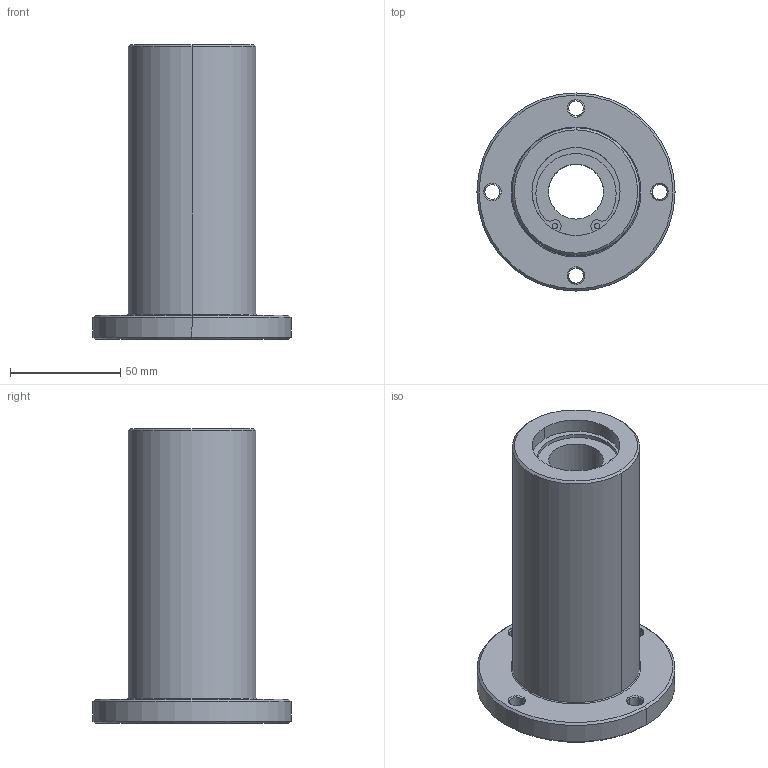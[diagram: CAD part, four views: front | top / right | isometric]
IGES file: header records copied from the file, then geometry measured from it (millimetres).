
Start section: 3D InterOp IGES (Version 21 0 1), Spatial Corp. Copyright (c) 1999-2007.
Global section: file name: LCFD-25AVUU.igs; native system: Spatial Corp.; preprocessor: 3D InterOp GENERIC/IGES 3.0; author: Noname; organization: Noname; date: 20220517.163507; units: millimetre
Bounding box: 90 x 90 x 134 mm (x, y, z)
Surface area: 48725 mm2 (no closed solid volume)
Topology: 0 solids, 0 shells, 88 faces, 434 edges, 434 vertices
Faces by surface type: revolution 72, extrusion 16
